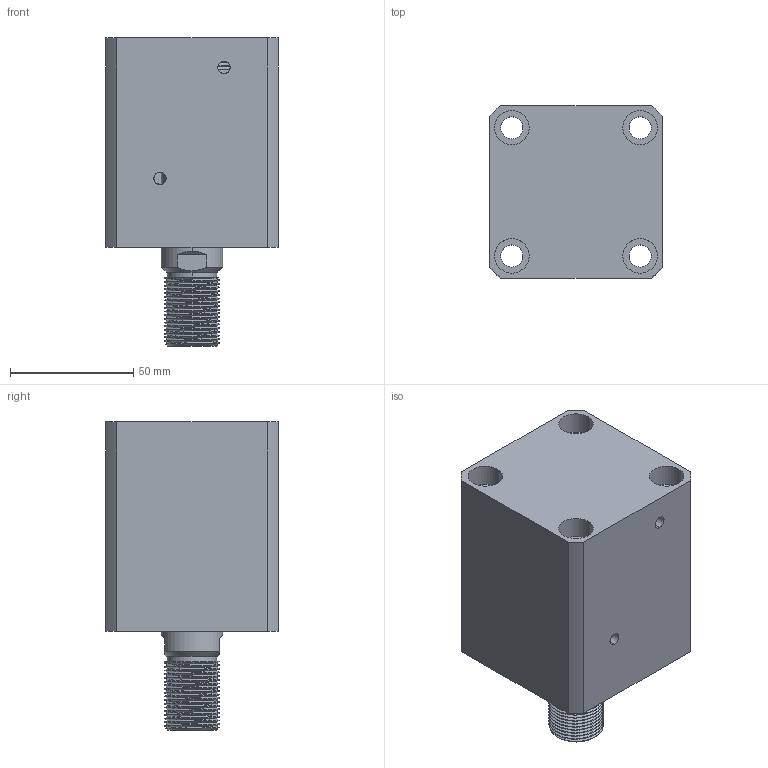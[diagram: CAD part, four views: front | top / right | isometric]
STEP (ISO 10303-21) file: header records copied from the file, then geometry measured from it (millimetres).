
FILE_DESCRIPTION (( 'STEP AP214' ), '1' );
FILE_NAME ('chtb-sdma40x30w_asm.STEP', '2018-06-06T00:26:27', ( 'Windows' ), ( 'Microsoft' ), 'SwSTEP 2.0', 'SolidWorks 2015', '' );
FILE_SCHEMA (( 'AUTOMOTIVE_DESIGN' ));
Length unit declared in the file: millimetre
Products named in the file (4): CHTB-SDMA40X30NBT; CHTB-SD40X30WHSG; CHTB-SD40QG; chtb-sdma40x30w_asm
Assembly tree (3 placements, depth 2):
  chtb-sdma40x30w_asm
    CHTB-SD40QG
    CHTB-SD40X30WHSG
    CHTB-SDMA40X30NBT
Bounding box: 70 x 70 x 125 mm (x, y, z)
Volume: 372109.5 mm3; surface area: 79683.1 mm2
Topology: 3 solids, 4 shells, 203 faces, 545 edges, 363 vertices
Faces by surface type: cylinder 122, plane 40, bspline 16, torus 14, cone 11
Entity records: 13587 total; most frequent: CARTESIAN_POINT 8658, ORIENTED_EDGE 1078, DIRECTION 914, EDGE_CURVE 539, AXIS2_PLACEMENT_3D 378, VERTEX_POINT 363, EDGE_LOOP 240, FACE_OUTER_BOUND 203
